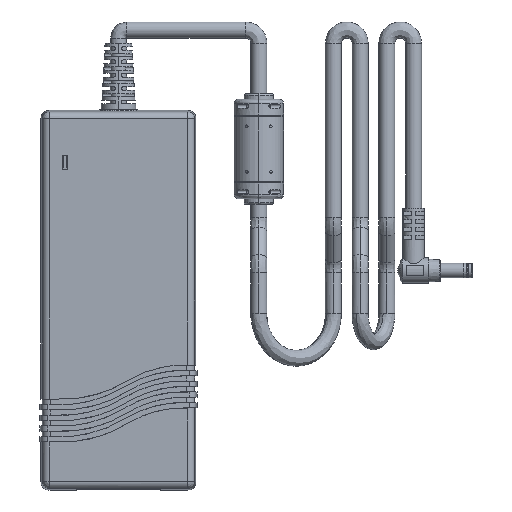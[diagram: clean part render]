
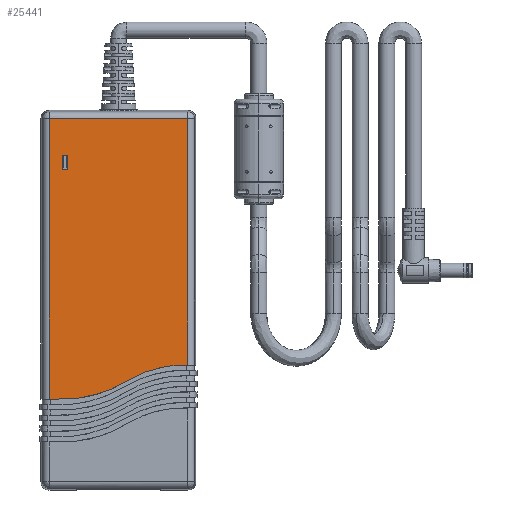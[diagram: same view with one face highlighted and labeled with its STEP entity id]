
A CAD part, front view. The second image highlights one B-rep face of the part: STEP entity #25441.
In plain terms, the highlighted planar face has unit normal (0, -1, 0) as drawn and (0, 0, 1) by its records, which use the part's own axes.
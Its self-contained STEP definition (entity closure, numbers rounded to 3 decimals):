
#960 = EDGE_LOOP ( 'NONE', ( #19054, #20035, #32781, #33573, #33771, #23756 ) ) ;
#1100 = CARTESIAN_POINT ( 'NONE',  ( 20.9, -48.85, 18.95 ) ) ;
#1199 = ORIENTED_EDGE ( 'NONE', *, *, #28344, .T. ) ;
#1764 = CARTESIAN_POINT ( 'NONE',  ( 22.675, 37.064, 18.95 ) ) ;
#2013 = VERTEX_POINT ( 'NONE', #33634 ) ;
#2265 = CARTESIAN_POINT ( 'NONE',  ( 17.881, 36.95, 18.95 ) ) ;
#2392 = CARTESIAN_POINT ( 'NONE',  ( 20.93, 37.096, 18.95 ) ) ;
#2518 = CARTESIAN_POINT ( 'NONE',  ( 12.201, 36.242, 18.95 ) ) ;
#2773 = CARTESIAN_POINT ( 'NONE',  ( -12.062, 26.086, 18.95 ) ) ;
#3153 = CARTESIAN_POINT ( 'NONE',  ( -7.499, 27.877, 18.95 ) ) ;
#3247 = DIRECTION ( 'NONE',  ( 0., -1., 0. ) ) ;
#3539 = VERTEX_POINT ( 'NONE', #1100 ) ;
#4664 = CARTESIAN_POINT ( 'NONE',  ( -25.924, -67.924, 18.95 ) ) ;
#4689 = VECTOR ( 'NONE', #30459, 1000. ) ;
#4837 = CARTESIAN_POINT ( 'NONE',  ( 19.1, -48.85, 18.95 ) ) ;
#5087 = CARTESIAN_POINT ( 'NONE',  ( 17.013, 36.877, 18.95 ) ) ;
#5214 = CARTESIAN_POINT ( 'NONE',  ( -0.996, 31.474, 18.95 ) ) ;
#5442 = DIRECTION ( 'NONE',  ( 0., 1., 0. ) ) ;
#5462 = CARTESIAN_POINT ( 'NONE',  ( -2.986, 30.261, 18.95 ) ) ;
#5476 = CARTESIAN_POINT ( 'NONE',  ( 3.357, 33.492, 18.95 ) ) ;
#5753 = EDGE_CURVE ( 'NONE', #26322, #19518, #23501, .T. ) ;
#5858 = CARTESIAN_POINT ( 'NONE',  ( -25.924, 24.257, 18.95 ) ) ;
#6105 = CARTESIAN_POINT ( 'NONE',  ( -19.829, 24.491, 18.95 ) ) ;
#6601 = DIRECTION ( 'NONE',  ( 0., 1., 0. ) ) ;
#6753 = EDGE_LOOP ( 'NONE', ( #1199, #16183, #18409, #27727 ) ) ;
#8310 = CARTESIAN_POINT ( 'NONE',  ( 3.495, 33.549, 18.95 ) ) ;
#8574 = CARTESIAN_POINT ( 'NONE',  ( -18.203, 24.702, 18.95 ) ) ;
#9177 = CARTESIAN_POINT ( 'NONE',  ( 19.1, -48.85, 18.95 ) ) ;
#9252 = EDGE_CURVE ( 'NONE', #17674, #3539, #37899, .T. ) ;
#9275 = VECTOR ( 'NONE', #9787, 1000. ) ;
#9787 = DIRECTION ( 'NONE',  ( 1., 0., 0. ) ) ;
#10782 = CARTESIAN_POINT ( 'NONE',  ( 1.074, 32.533, 18.95 ) ) ;
#11028 = B_SPLINE_CURVE_WITH_KNOTS ( 'NONE', 3,
 ( #11048, #11694, #29253, #35353, #3153, #32557, #35111, #23755, #14541, #2773, #32188, #29364, #8574, #11932, #26360, #38044, #6105, #32063, #17848, #5858 ),
 .UNSPECIFIED., .F., .F.,
 ( 4, 1, 1, 1, 2, 2, 2, 1, 1, 1, 2, 2, 4 ),
 ( 0., 0.125, 0.188, 0.219, 0.234, 0.25, 0.5, 0.625, 0.688, 0.719, 0.734, 0.75, 1. ),
 .UNSPECIFIED. ) ;
#11048 = CARTESIAN_POINT ( 'NONE',  ( -2.986, 30.261, 18.95 ) ) ;
#11172 = CARTESIAN_POINT ( 'NONE',  ( 5.138, 34.198, 18.95 ) ) ;
#11694 = CARTESIAN_POINT ( 'NONE',  ( -3.839, 29.741, 18.95 ) ) ;
#11932 = CARTESIAN_POINT ( 'NONE',  ( -19.076, 24.582, 18.95 ) ) ;
#12273 = CARTESIAN_POINT ( 'NONE',  ( 19.1, -54.15, 18.95 ) ) ;
#12404 = DIRECTION ( 'NONE',  ( 1., 0., 0. ) ) ;
#12531 = VECTOR ( 'NONE', #13191, 1000. ) ;
#12643 = VERTEX_POINT ( 'NONE', #5462 ) ;
#13191 = DIRECTION ( 'NONE',  ( -1., 0., 0. ) ) ;
#13322 = CARTESIAN_POINT ( 'NONE',  ( -25.924, 68., 18.95 ) ) ;
#13389 = CARTESIAN_POINT ( 'NONE',  ( 23.838, 37., 18.95 ) ) ;
#13784 = CARTESIAN_POINT ( 'NONE',  ( -25.924, 24.257, 18.95 ) ) ;
#14541 = CARTESIAN_POINT ( 'NONE',  ( -10.156, 26.737, 18.95 ) ) ;
#14588 = VECTOR ( 'NONE', #19537, 1000. ) ;
#15006 = CARTESIAN_POINT ( 'NONE',  ( 20.9, -54.15, 18.95 ) ) ;
#15103 = FACE_BOUND ( 'NONE', #6753, .T. ) ;
#15179 = VECTOR ( 'NONE', #5442, 1000. ) ;
#15482 = VERTEX_POINT ( 'NONE', #17510 ) ;
#15856 = DIRECTION ( 'NONE',  ( 0., 0., 1. ) ) ;
#16183 = ORIENTED_EDGE ( 'NONE', *, *, #5753, .T. ) ;
#16682 = LINE ( 'NONE', #35661, #9275 ) ;
#16963 = B_SPLINE_CURVE_WITH_KNOTS ( 'NONE', 3,
 ( #13389, #1764, #2392, #19928, #2265, #34360, #22864, #5087, #20175, #2518, #19664, #17225, #11172, #28373, #31289, #8310, #5476, #10782, #5214, #23127 ),
 .UNSPECIFIED., .F., .F.,
 ( 4, 1, 1, 1, 2, 2, 2, 1, 1, 1, 2, 2, 4 ),
 ( 0., 0.125, 0.188, 0.219, 0.234, 0.25, 0.5, 0.625, 0.687, 0.719, 0.734, 0.75, 1. ),
 .UNSPECIFIED. ) ;
#17225 = CARTESIAN_POINT ( 'NONE',  ( 7.077, 34.886, 18.95 ) ) ;
#17510 = CARTESIAN_POINT ( 'NONE',  ( 23.838, 37., 18.95 ) ) ;
#17674 = VERTEX_POINT ( 'NONE', #32552 ) ;
#17848 = CARTESIAN_POINT ( 'NONE',  ( -23.928, 24.186, 18.95 ) ) ;
#18290 = CARTESIAN_POINT ( 'NONE',  ( -26., 68., 18.95 ) ) ;
#18396 = LINE ( 'NONE', #24913, #15179 ) ;
#18409 = ORIENTED_EDGE ( 'NONE', *, *, #34256, .T. ) ;
#18535 = VERTEX_POINT ( 'NONE', #31689 ) ;
#19054 = ORIENTED_EDGE ( 'NONE', *, *, #32515, .T. ) ;
#19518 = VERTEX_POINT ( 'NONE', #12273 ) ;
#19537 = DIRECTION ( 'NONE',  ( 1., 0., 0. ) ) ;
#19664 = CARTESIAN_POINT ( 'NONE',  ( 8.771, 35.38, 18.95 ) ) ;
#19736 = VECTOR ( 'NONE', #3247, 1000. ) ;
#19928 = CARTESIAN_POINT ( 'NONE',  ( 18.897, 37.017, 18.95 ) ) ;
#20035 = ORIENTED_EDGE ( 'NONE', *, *, #31102, .T. ) ;
#20175 = CARTESIAN_POINT ( 'NONE',  ( 14.519, 36.64, 18.95 ) ) ;
#20257 = VECTOR ( 'NONE', #33415, 1000. ) ;
#21065 = FACE_OUTER_BOUND ( 'NONE', #960, .T. ) ;
#21729 = EDGE_CURVE ( 'NONE', #26628, #18535, #16682, .T. ) ;
#22864 = CARTESIAN_POINT ( 'NONE',  ( 17.156, 36.89, 18.95 ) ) ;
#23127 = CARTESIAN_POINT ( 'NONE',  ( -2.986, 30.261, 18.95 ) ) ;
#23501 = LINE ( 'NONE', #24869, #12531 ) ;
#23597 = AXIS2_PLACEMENT_3D ( 'NONE', #18290, #15856, #12404 ) ;
#23755 = CARTESIAN_POINT ( 'NONE',  ( -8.183, 27.577, 18.95 ) ) ;
#23756 = ORIENTED_EDGE ( 'NONE', *, *, #35421, .T. ) ;
#24397 = LINE ( 'NONE', #13322, #20257 ) ;
#24869 = CARTESIAN_POINT ( 'NONE',  ( 19.1, -54.15, 18.95 ) ) ;
#24913 = CARTESIAN_POINT ( 'NONE',  ( 25.924, 68., 18.95 ) ) ;
#25441 = ADVANCED_FACE ( 'NONE', ( #15103, #21065 ), #35930, .T. ) ;
#26322 = VERTEX_POINT ( 'NONE', #15006 ) ;
#26360 = CARTESIAN_POINT ( 'NONE',  ( -19.452, 24.536, 18.95 ) ) ;
#26628 = VERTEX_POINT ( 'NONE', #4664 ) ;
#27036 = CARTESIAN_POINT ( 'NONE',  ( -26., 37., 18.95 ) ) ;
#27540 = LINE ( 'NONE', #35200, #19736 ) ;
#27583 = VECTOR ( 'NONE', #6601, 1000. ) ;
#27727 = ORIENTED_EDGE ( 'NONE', *, *, #9252, .T. ) ;
#28344 = EDGE_CURVE ( 'NONE', #3539, #26322, #27540, .T. ) ;
#28373 = CARTESIAN_POINT ( 'NONE',  ( 4.177, 33.826, 18.95 ) ) ;
#29253 = CARTESIAN_POINT ( 'NONE',  ( -5.142, 29.009, 18.95 ) ) ;
#29364 = CARTESIAN_POINT ( 'NONE',  ( -16.465, 24.991, 18.95 ) ) ;
#29816 = VERTEX_POINT ( 'NONE', #13784 ) ;
#29897 = EDGE_CURVE ( 'NONE', #12643, #29816, #11028, .T. ) ;
#30316 = LINE ( 'NONE', #9177, #27583 ) ;
#30459 = DIRECTION ( 'NONE',  ( -1., 0., 0. ) ) ;
#31102 = EDGE_CURVE ( 'NONE', #15482, #12643, #16963, .T. ) ;
#31289 = CARTESIAN_POINT ( 'NONE',  ( 3.768, 33.66, 18.95 ) ) ;
#31689 = CARTESIAN_POINT ( 'NONE',  ( 25.924, -67.924, 18.95 ) ) ;
#32063 = CARTESIAN_POINT ( 'NONE',  ( -21.938, 24.26, 18.95 ) ) ;
#32188 = CARTESIAN_POINT ( 'NONE',  ( -14.99, 25.319, 18.95 ) ) ;
#32515 = EDGE_CURVE ( 'NONE', #2013, #15482, #37734, .T. ) ;
#32552 = CARTESIAN_POINT ( 'NONE',  ( 19.1, -48.85, 18.95 ) ) ;
#32557 = CARTESIAN_POINT ( 'NONE',  ( -7.841, 27.726, 18.95 ) ) ;
#32781 = ORIENTED_EDGE ( 'NONE', *, *, #29897, .T. ) ;
#33415 = DIRECTION ( 'NONE',  ( 0., -1., 0. ) ) ;
#33573 = ORIENTED_EDGE ( 'NONE', *, *, #34422, .T. ) ;
#33634 = CARTESIAN_POINT ( 'NONE',  ( 25.924, 37., 18.95 ) ) ;
#33771 = ORIENTED_EDGE ( 'NONE', *, *, #21729, .T. ) ;
#34256 = EDGE_CURVE ( 'NONE', #19518, #17674, #30316, .T. ) ;
#34360 = CARTESIAN_POINT ( 'NONE',  ( 17.446, 36.915, 18.95 ) ) ;
#34422 = EDGE_CURVE ( 'NONE', #29816, #26628, #24397, .T. ) ;
#35111 = CARTESIAN_POINT ( 'NONE',  ( -8.07, 27.626, 18.95 ) ) ;
#35200 = CARTESIAN_POINT ( 'NONE',  ( 20.9, -48.85, 18.95 ) ) ;
#35353 = CARTESIAN_POINT ( 'NONE',  ( -6.706, 28.24, 18.95 ) ) ;
#35421 = EDGE_CURVE ( 'NONE', #18535, #2013, #18396, .T. ) ;
#35661 = CARTESIAN_POINT ( 'NONE',  ( -26., -67.924, 18.95 ) ) ;
#35930 = PLANE ( 'NONE',  #23597 ) ;
#37734 = LINE ( 'NONE', #27036, #4689 ) ;
#37899 = LINE ( 'NONE', #4837, #14588 ) ;
#38044 = CARTESIAN_POINT ( 'NONE',  ( -19.702, 24.506, 18.95 ) ) ;
